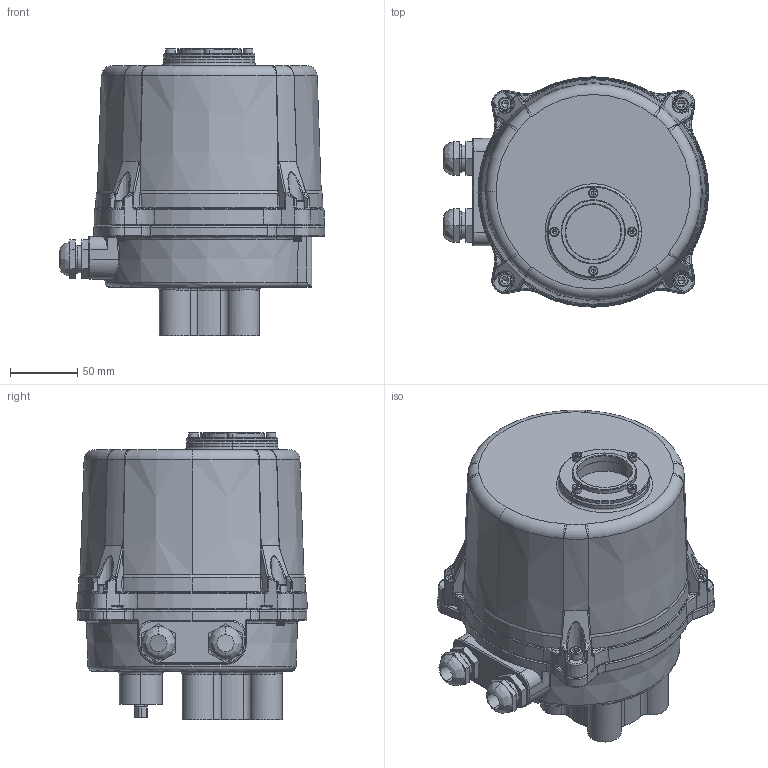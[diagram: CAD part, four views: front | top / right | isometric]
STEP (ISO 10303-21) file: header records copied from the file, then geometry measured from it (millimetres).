
FILE_DESCRIPTION (( 'STEP AP203' ), '1' );
FILE_NAME ('2# 軞蚾20190118-陔褲.STEP', '2021-01-20T05:57:01', ( '' ), ( '' ), 'SwSTEP 2.0', 'SolidWorks 2018', '' );
FILE_SCHEMA (( 'CONFIG_CONTROL_DESIGN' ));
Length unit declared in the file: millimetre
Products named in the file (21): hexagon socket head cap screws gb_GB_FASTENER_SCREWS_HSHCS M6X25-S; M20-1.5滅阨諉芛; 粣創6900_61900-2Z; hex nuts, style 1-grades ab gb_GB_FASTENER_NUT_SNAB1 M4-S; 翋粣_蜊; 2瘍蕾翐粣; 菜え28x15.5x1.5; hex socket set screws with flat point gb_GB_FASTENER_SCREWS_HSFP M4X5-S; O型圈外155x4; GB╱T 1564-2003[普通A型楔键键 5×5×10]_键 5×5×10; 芼堤弝敦_す裔4; 蚐猾ㄗ尨砩ㄘ; 2# 軞蚾20190118-陔褲; 啣2; 等芛鞠褒蹟翐; 10x20x4蚐猾; 奻裔_沓喃; 路杶; 喘2粣; 2#褲极-20181106_沓喃; hexagon socket head cap screws gb_GB_FASTENER_SCREWS_HSHCS M4X6-N
Assembly tree (30 placements, depth 2):
  2# 軞蚾20190118-陔褲
    2#褲极-20181106_沓喃
    喘2粣
    翋粣_蜊
    蚐猾ㄗ尨砩ㄘ
    10x20x4蚐猾
    M20-1.5滅阨諉芛  x2
    奻裔_沓喃
    hexagon socket head cap screws gb_GB_FASTENER_SCREWS_HSHCS M6X25-S  x4
    芼堤弝敦_す裔4
    粣創6900_61900-2Z
    GB╱T 1564-2003[普通A型楔键键 5×5×10]_键 5×5×10
    菜え28x15.5x1.5
    啣2  x4
    hex nuts, style 1-grades ab gb_GB_FASTENER_NUT_SNAB1 M4-S
    2瘍蕾翐粣
    等芛鞠褒蹟翐
    hex socket set screws with flat point gb_GB_FASTENER_SCREWS_HSFP M4X5-S
    路杶
    O型圈外155x4
    hexagon socket head cap screws gb_GB_FASTENER_SCREWS_HSHCS M4X6-N  x4
Bounding box: 197.78 x 171.93 x 214.36 mm (x, y, z)
Volume: 3768967.5 mm3; surface area: 296798.9 mm2
Topology: 44 solids, 46 shells, 2831 faces, 6410 edges, 3658 vertices
Faces by surface type: cone 866, cylinder 853, plane 508, bspline 359, torus 170, sphere 75
Entity records: 66578 total; most frequent: CARTESIAN_POINT 25103, ORIENTED_EDGE 8284, DIRECTION 8079, EDGE_CURVE 4142, AXIS2_PLACEMENT_3D 3407, VERTEX_POINT 2456, EDGE_LOOP 1970, CIRCLE 1883
